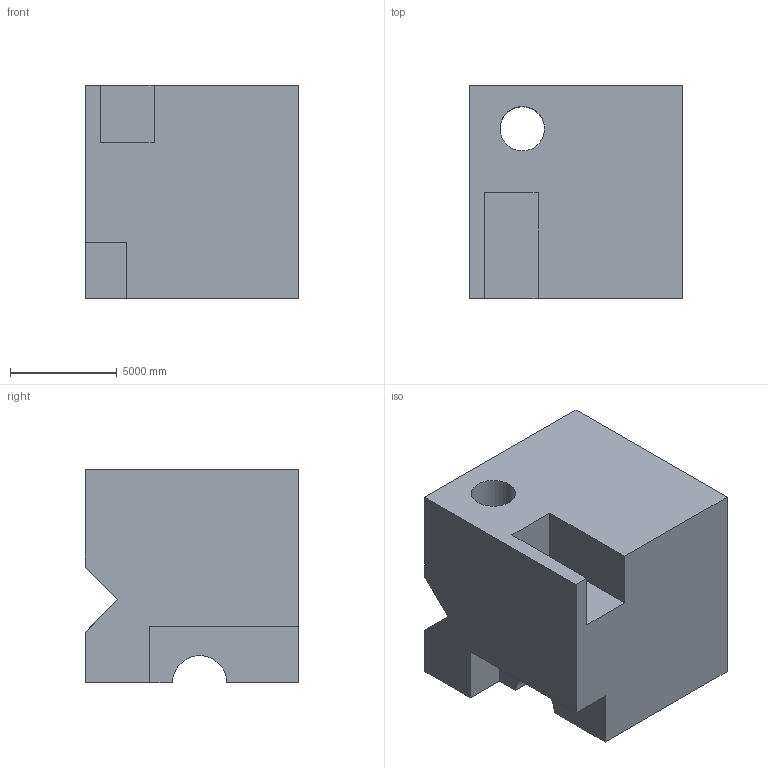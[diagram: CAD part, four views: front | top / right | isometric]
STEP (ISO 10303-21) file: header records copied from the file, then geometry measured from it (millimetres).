
FILE_DESCRIPTION (( 'STEP AP203' ), '1' );
FILE_NAME ('1590.STEP', '2022-08-18T16:00:14', ( 'user' ), ( '' ), 'SwSTEP 2.0', 'SolidWorks 2021', '' );
FILE_SCHEMA (( 'CONFIG_CONTROL_DESIGN' ));
Length unit declared in the file: centimetre
Products named in the file (1): 1590
Bounding box: 10000 x 10000 x 10000 mm (x, y, z)
Volume: 836364281677.7 mm3; surface area: 725983592.9 mm2
Topology: 1 solids, 1 shells, 23 faces, 63 edges, 42 vertices
Faces by surface type: plane 18, cylinder 5
Entity records: 812 total; most frequent: CARTESIAN_POINT 135, ORIENTED_EDGE 126, DIRECTION 119, EDGE_CURVE 63, LINE 51, VECTOR 51, VERTEX_POINT 42, AXIS2_PLACEMENT_3D 34
